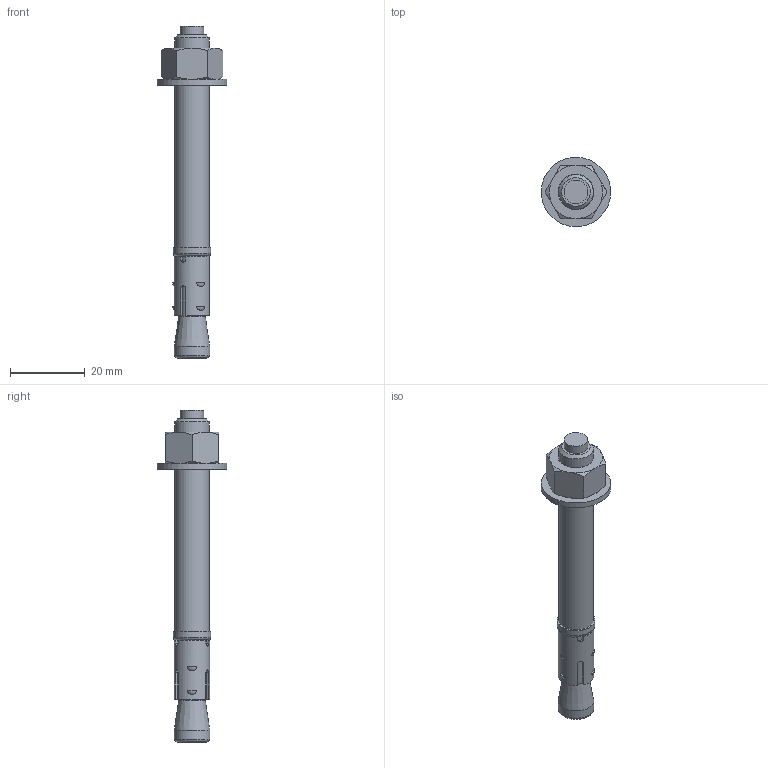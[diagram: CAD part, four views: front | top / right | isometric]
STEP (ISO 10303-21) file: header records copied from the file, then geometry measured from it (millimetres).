
FILE_DESCRIPTION(/* description */ (''),/* implementation_level */ '2;1');
FILE_NAME(/* name */ 'C:\001_Work\Designs\SAS\SAS-0.375 x 3.500 ANCHOR.stp',/* time_stamp */ '2015-10-10T16:41:25-04:00',/* author */ ('rramoutar'),/* organization */ ('Mason Industries Inc.'),/* preprocessor_version */ 'ST-DEVELOPER v15.6',/* originating_system */ 'Autodesk Inventor 2015',/* authorisation */ '');
FILE_SCHEMA (('AUTOMOTIVE_DESIGN { 1 0 10303 214 3 1 1 }'));
Length unit declared in the file: inch
Products named in the file (1): SAS-0.375 x 3.500 ANCHOR
Bounding box: 18.59 x 18.59 x 88.9 mm (x, y, z)
Volume: 6889.7 mm3; surface area: 4209.7 mm2
Topology: 1 solids, 1 shells, 77 faces, 176 edges, 110 vertices
Faces by surface type: plane 37, cone 16, cylinder 15, sphere 7, torus 2
Full cylindrical faces by diameter (mm): 6.35 x1, 6.706 x1, 7.144 x1, 9.271 x2, 9.525 x1, 10.065 x1, 10.312 x1, 18.644 x1
Entity records: 2338 total; most frequent: CARTESIAN_POINT 624, DIRECTION 338, ORIENTED_EDGE 310, EDGE_CURVE 155, AXIS2_PLACEMENT_3D 143, EDGE_LOOP 106, VERTEX_POINT 105, STYLED_ITEM 78
